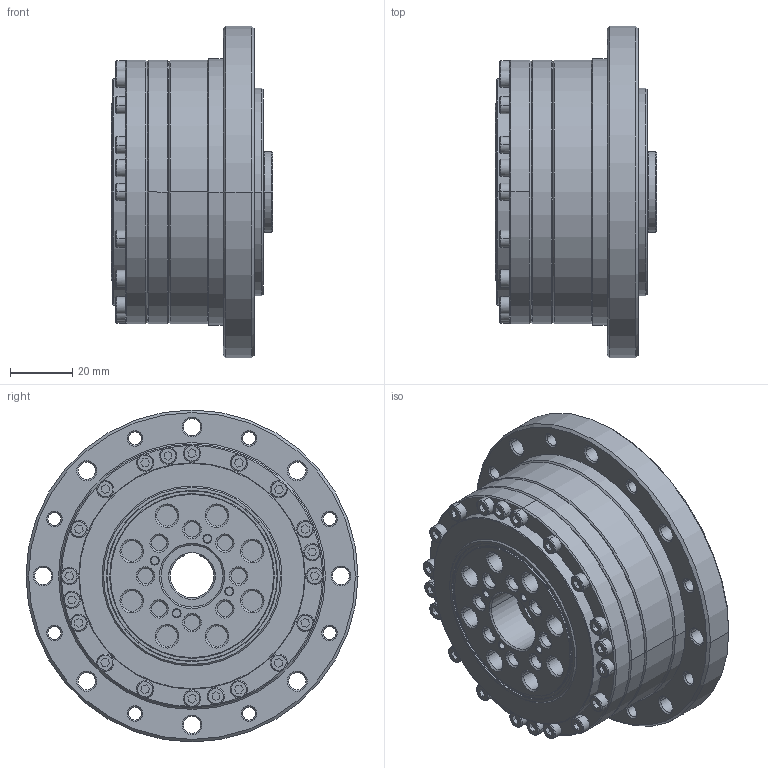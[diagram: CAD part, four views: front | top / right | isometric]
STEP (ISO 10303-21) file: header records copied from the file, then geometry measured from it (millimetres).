
FILE_DESCRIPTION(('STEP AP214'),'1');
FILE_NAME('cctmp_2CDD807A-F93B-41B1-9C69-D1970485310C_2025_03_06_11_18_04_0693_57988..stp','2025-03-06T10:18:05',('HIWIN GmbH'),('CADClick - www.CADClick.com'),'Spatial InterOp 3D',' ','unknown authorization');
FILE_SCHEMA(('AUTOMOTIVE_DESIGN'));
Length unit declared in the file: millimetre
Products named in the file (2): DSC-25-XX-PO_FILE; 2025_03_06_11_18_04_0677
Assembly tree (1 placements, depth 2):
  DSC-25-XX-PO_FILE
    2025_03_06_11_18_04_0677
Bounding box: 52 x 107 x 107 mm (x, y, z)
Volume: 272220.7 mm3; surface area: 43975.2 mm2
Topology: 1 solids, 1 shells, 595 faces, 1414 edges, 882 vertices
Faces by surface type: plane 235, cylinder 168, cone 146, bspline 46
Entity records: 23050 total; most frequent: CARTESIAN_POINT 4183, DIRECTION 3124, ORIENTED_EDGE 2828, EDGE_CURVE 1414, AXIS2_PLACEMENT_3D 1213, VERTEX_POINT 882, LINE 698, VECTOR 698
